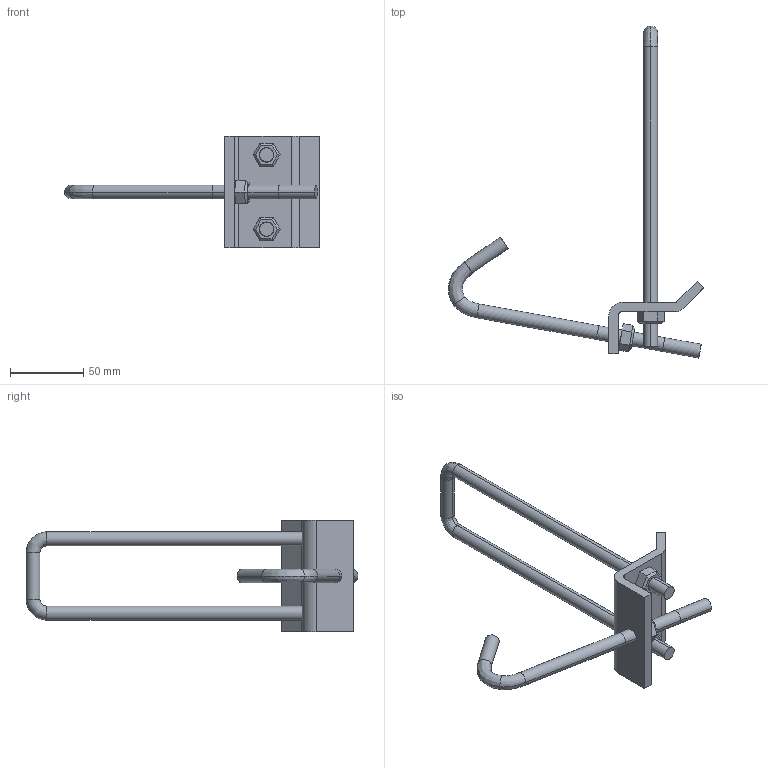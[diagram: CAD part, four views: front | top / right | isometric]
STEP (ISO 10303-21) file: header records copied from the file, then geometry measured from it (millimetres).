
FILE_DESCRIPTION(('TurboCAD Mac Pro'),'Build 980');
FILE_NAME('P2867B.stp',' ',(''),(''),'ACIS Interop','IMSI','TurboCAD Mac Pro BY IMSI, INCORPORATED');
FILE_SCHEMA(('automotive_design'));
Length unit declared in the file: inch
Products named in the file (6): 1; 2; 3; 4; 5; 6
Bounding box: 174.57 x 226.95 x 76.2 mm (x, y, z)
Volume: 98239.3 mm3; surface area: 40579.3 mm2
Topology: 6 solids, 6 shells, 100 faces, 226 edges, 138 vertices
Faces by surface type: plane 56, bspline 24, cylinder 20
Entity records: 5640 total; most frequent: CARTESIAN_POINT 1602, ORIENTED_EDGE 452, DIRECTION 382, STYLED_ITEM 304, PRESENTATION_STYLE_ASSIGNMENT 304, COLOUR_RGB 304, EDGE_CURVE 226, CURVE_STYLE 198
